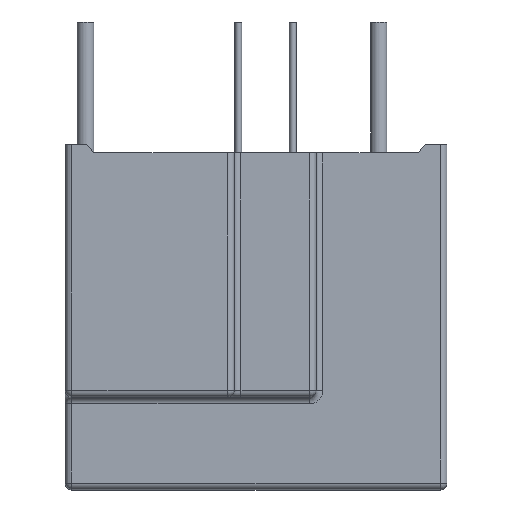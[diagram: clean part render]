
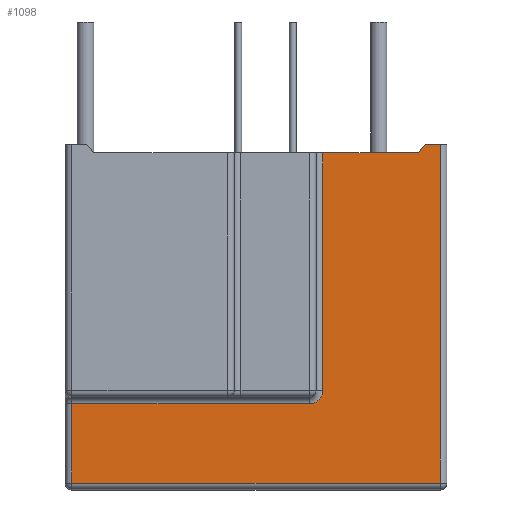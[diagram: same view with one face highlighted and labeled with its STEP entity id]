
A CAD part, top view. The second image highlights one B-rep face of the part: STEP entity #1098.
In plain terms, the highlighted planar face has unit normal (0, 0, 1).
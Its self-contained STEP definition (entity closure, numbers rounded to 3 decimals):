
#105=DIRECTION('',(0.,1.,0.));
#106=VECTOR('',#105,17.4);
#107=CARTESIAN_POINT('',(4.9,-5.35,7.5));
#108=LINE('',#107,#106);
#109=DIRECTION('',(1.,0.,0.));
#110=VECTOR('',#109,7.);
#111=CARTESIAN_POINT('',(4.9,12.05,7.5));
#112=LINE('',#111,#110);
#113=DIRECTION('',(-0.643,-0.766,0.));
#114=VECTOR('',#113,0.783);
#115=CARTESIAN_POINT('',(12.403,12.65,7.5));
#116=LINE('',#115,#114);
#117=DIRECTION('',(-1.,0.,0.));
#118=VECTOR('',#117,1.097);
#119=CARTESIAN_POINT('',(13.5,12.65,7.5));
#120=LINE('',#119,#118);
#121=DIRECTION('',(0.,1.,0.));
#122=VECTOR('',#121,24.8);
#123=CARTESIAN_POINT('',(13.5,-12.15,7.5));
#124=LINE('',#123,#122);
#125=DIRECTION('',(1.,0.,0.));
#126=VECTOR('',#125,27.);
#127=CARTESIAN_POINT('',(-13.5,-12.15,7.5));
#128=LINE('',#127,#126);
#129=DIRECTION('',(0.,-1.,0.));
#130=VECTOR('',#129,5.8);
#131=CARTESIAN_POINT('',(-13.5,-6.35,7.5));
#132=LINE('',#131,#130);
#133=DIRECTION('',(1.,0.,0.));
#134=VECTOR('',#133,17.4);
#135=CARTESIAN_POINT('',(-13.5,-6.35,7.5));
#136=LINE('',#135,#134);
#137=CARTESIAN_POINT('',(3.9,-5.35,7.5));
#138=DIRECTION('',(0.,0.,-1.));
#139=DIRECTION('',(1.,0.,0.));
#140=AXIS2_PLACEMENT_3D('',#137,#138,#139);
#773=CARTESIAN_POINT('',(12.403,12.65,7.5));
#774=CARTESIAN_POINT('',(11.9,12.05,7.5));
#775=VERTEX_POINT('',#773);
#776=VERTEX_POINT('',#774);
#885=CARTESIAN_POINT('',(4.9,-5.35,7.5));
#886=CARTESIAN_POINT('',(4.9,12.05,7.5));
#887=VERTEX_POINT('',#885);
#888=VERTEX_POINT('',#886);
#891=CARTESIAN_POINT('',(-13.5,-6.35,7.5));
#892=CARTESIAN_POINT('',(3.9,-6.35,7.5));
#893=VERTEX_POINT('',#891);
#894=VERTEX_POINT('',#892);
#899=CARTESIAN_POINT('',(-13.5,-12.15,7.5));
#900=VERTEX_POINT('',#899);
#909=CARTESIAN_POINT('',(13.5,-12.15,7.5));
#910=VERTEX_POINT('',#909);
#911=CARTESIAN_POINT('',(13.5,12.65,7.5));
#913=VERTEX_POINT('',#911);
#1074=CARTESIAN_POINT('',(0.,0.,7.5));
#1075=DIRECTION('',(0.,0.,1.));
#1076=DIRECTION('',(1.,0.,0.));
#1077=AXIS2_PLACEMENT_3D('',#1074,#1075,#1076);
#1078=PLANE('',#1077);
#1080=ORIENTED_EDGE('',*,*,#1079,.T.);
#1082=ORIENTED_EDGE('',*,*,#1081,.T.);
#1084=ORIENTED_EDGE('',*,*,#1083,.F.);
#1086=ORIENTED_EDGE('',*,*,#1085,.F.);
#1088=ORIENTED_EDGE('',*,*,#1087,.F.);
#1090=ORIENTED_EDGE('',*,*,#1089,.F.);
#1091=ORIENTED_EDGE('',*,*,#1067,.F.);
#1093=ORIENTED_EDGE('',*,*,#1092,.T.);
#1095=ORIENTED_EDGE('',*,*,#1094,.F.);
#1096=EDGE_LOOP('',(#1080,#1082,#1084,#1086,#1088,#1090,#1091,#1093,#1095));
#1097=FACE_OUTER_BOUND('',#1096,.F.);
#1098=ADVANCED_FACE('',(#1097),#1078,.T.);
#141=CIRCLE('',#140,1.);
#1067=EDGE_CURVE('',#893,#900,#132,.T.);
#1079=EDGE_CURVE('',#887,#888,#108,.T.);
#1081=EDGE_CURVE('',#888,#776,#112,.T.);
#1083=EDGE_CURVE('',#775,#776,#116,.T.);
#1085=EDGE_CURVE('',#913,#775,#120,.T.);
#1087=EDGE_CURVE('',#910,#913,#124,.T.);
#1089=EDGE_CURVE('',#900,#910,#128,.T.);
#1092=EDGE_CURVE('',#893,#894,#136,.T.);
#1094=EDGE_CURVE('',#887,#894,#141,.T.);
